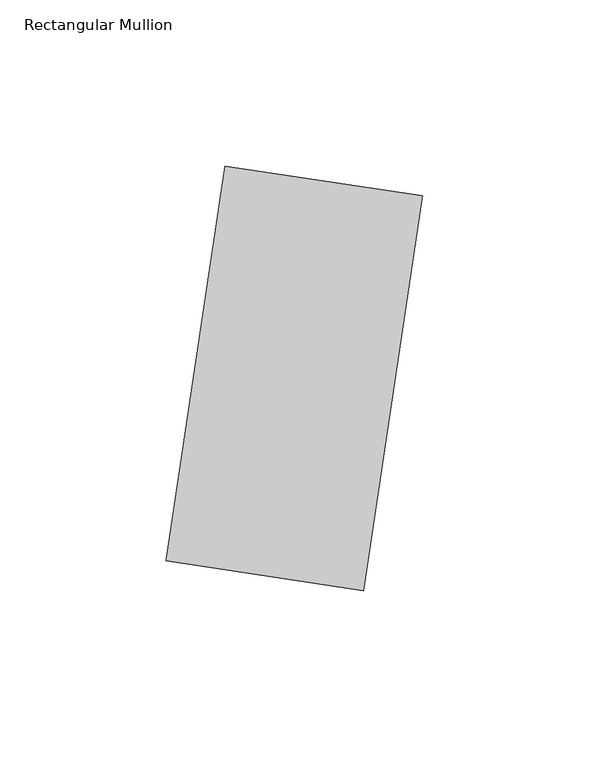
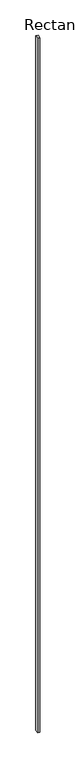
"""IFC4 building model written with IfcOpenShell, lengths in millimetres: member geometry, Rectangular Mullion : TERÇA 6x12 cm."""

from ifc_helpers import new_model, si_unit, frame, origin, place, context, project, spatial, polyline, outline, extrude, source, transform, mapped, element, save


def rectangular_mullion_307d02f0(model_context):
    return source(origin(), model_context, "Body", "SweptSolid", [
        extrude(outline(polyline([(-29.6680906, 4.4502136), (-11.8672362, 123.1225759), (47.4689449, 114.2221488), (29.6680906, -4.4502136), (-29.6680906, 4.4502136)])), frame((0.0, 0.0, -19265.1659547), z_axis=(0.0, 0.0, 1.0), x_axis=(1.0, 0.0, 0.0)), (0.0, 0.0, 1.0), 19265.1659547),
    ])


if __name__ == "__main__":
    model = new_model("IFC4")
    model_context = context("Model", 3, world=origin())
    ifc_project = project(units=[si_unit("LENGTHUNIT", "METRE", prefix="MILLI")], contexts=[model_context])
    site = spatial("IfcSite", under=ifc_project)
    building = spatial("IfcBuilding", under=site)
    placement = place(None, origin())
    rectangular_mullion_shape = rectangular_mullion_307d02f0(model_context)
    element("IfcMember", 1, ObjectType="Rectangular Mullion : TERÇA 6x12 cm", at=placement, inside=building, context=model_context, shape_type="MappedRepresentation", body=[
        mapped(rectangular_mullion_shape, transform((0.0, 0.0, 0.0), x_axis=(1.0, 0.0, 0.0), y_axis=(0.0, 1.0, 0.0), z_axis=(0.0, 0.0, 1.0))),
    ])
    save(model, "model.ifc")
